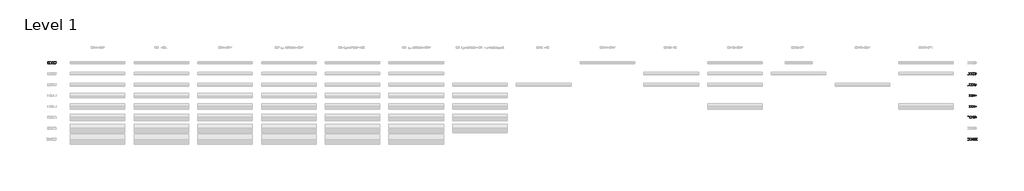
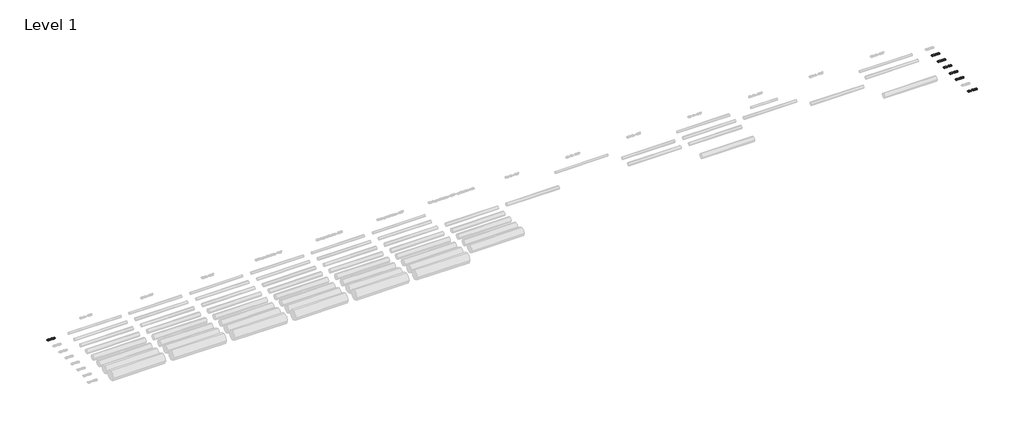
# One storey, part 4 of 10: 7 proxies.
"""IFC4 building model written with IfcOpenShell, lengths in millimetres."""

from ifc_helpers import new_model, si_unit, origin, origin_with_axes, place, context, project, spatial, polyline, outline, extrude, element, save

model = new_model("IFC4")

# Units and contexts
model_context = context("Model", 3, world=origin())
ifc_project = project(units=[si_unit("LENGTHUNIT", "METRE", prefix="MILLI")], contexts=[model_context])

# Site, building, storey
site = spatial("IfcSite", under=ifc_project)
building = spatial("IfcBuilding", under=site)
storey = spatial("IfcBuildingStorey", under=building, Name="Level 1", Elevation=0.0)

# Proxies
placement = place(None, origin())
element("IfcBuildingElementProxy", 1, Name="200mm Arial", ObjectType="200mm Arial", at=placement, inside=storey, context=model_context, shape_type="SweptSolid", body=[
    extrude(outline(polyline([(-19491.3116028, 486.050427), (-19491.3116028, 686.9630473), (-19422.0026349, 686.9630473), (-19386.1464031, 684.0690423), (-19370.1312736, 678.4894987), (-19356.6177416, 669.697119), (-19342.724065, 654.393228), (-19332.8280393, 635.3614662), (-19326.9051392, 612.9697154), (-19324.9308391, 587.5858577), (-19330.2773908, 547.0452618), (-19344.0116519, 517.7863805), (-19362.3567008, 499.563959), (-19386.3671323, 489.4839923), (-19418.6671715, 486.050427), (-19491.3116028, 486.050427)]), holes=[polyline([(-19466.1975253, 511.1645046), (-19421.7573803, 511.1645046), (-19389.4328156, 514.7942736), (-19370.7934612, 525.0459185), (-19362.0685265, 535.9168315), (-19355.5140957, 549.9883178), (-19351.4122114, 567.3216911), (-19350.0449167, 587.9782652), (-19352.7243239, 615.3486856), (-19360.7625455, 635.5576699), (-19372.6390025, 649.4390838), (-19386.8331162, 657.8267933), (-19422.4440933, 661.8489698), (-19466.1975253, 661.8489698), (-19466.1975253, 511.1645046)])]), origin_with_axes(), (0.0, 0.0, 1.0), 50.0),
    extrude(outline(polyline([(-19290.3989825, 486.050427), (-19290.3989825, 686.9630473), (-19263.5190714, 686.9630473), (-19158.5500754, 527.7927708), (-19158.5500754, 686.9630473), (-19133.4359979, 686.9630473), (-19133.4359979, 486.050427), (-19160.315909, 486.050427), (-19265.284905, 645.2697546), (-19265.284905, 486.050427), (-19290.3989825, 486.050427)])), origin_with_axes(), (0.0, 0.0, 1.0), 50.0),
    extrude(outline(polyline([(-18891.7130016, 511.1645046), (-18891.7130016, 486.050427), (-19023.5619087, 486.050427), (-19020.8641074, 503.3654063), (-19005.6092673, 530.0245882), (-18974.1676195, 559.1363168), (-18930.806595, 600.9767623), (-18922.6764029, 615.3977366), (-18919.9663388, 629.4263033), (-18922.5231187, 642.0017362), (-18930.1934583, 652.4557162), (-18941.9840762, 659.5006564), (-18956.9016912, 661.8489698), (-18972.5673328, 659.5558387), (-18984.7380955, 652.6764454), (-18992.5923761, 641.7503501), (-18995.3085714, 627.3171132), (-19020.422649, 630.4563729), (-19014.334202, 654.7488473), (-19001.1701579, 672.4930222), (-18981.6172299, 683.3455411), (-18956.3621309, 686.9630473), (-18930.9230909, 682.9408709), (-18911.4069511, 670.8743414), (-18898.9909337, 652.8481237), (-18894.8522613, 630.9468822), (-18899.3158962, 607.1326544), (-18914.1538033, 582.5090862), (-18950.1326624, 548.0998569), (-18979.0236618, 523.9422725), (-18990.3544272, 511.1645046), (-18891.7130016, 511.1645046)])), origin_with_axes(), (0.0, 0.0, 1.0), 50.0),
    extrude(outline(polyline([(-18866.5989241, 584.8880564), (-18864.7533827, 617.0470742), (-18859.2167587, 642.6945806), (-18850.0442343, 662.2229832), (-18837.2909918, 676.0246894), (-18820.8650607, 684.2284578), (-18800.6744705, 686.9630473), (-18785.1989013, 685.3443666), (-18771.3420128, 680.4883242), (-18759.7537299, 672.5849927), (-18751.0839776, 661.8244443), (-18739.3117537, 632.0995791), (-18734.750017, 584.8880564), (-18736.5771642, 552.9129797), (-18742.058606, 527.3267869), (-18751.1759481, 507.7799902), (-18763.9107965, 493.9231017), (-18780.3735158, 485.664151), (-18800.6744705, 482.9111674), (-18826.7695667, 487.6936333), (-18846.5861435, 502.0410311), (-18855.341735, 517.1701782), (-18861.5957289, 536.0210647), (-18866.5989241, 584.8880564)]), holes=[polyline([(-18841.4848465, 584.9371073), (-18838.5417906, 545.4327124), (-18829.7126227, 522.5688464), (-18816.5669727, 511.6611453), (-18800.6744705, 508.0252449), (-18784.7819683, 511.673408), (-18771.6363184, 522.6178974), (-18762.8071505, 545.4940261), (-18759.8640945, 584.9371073), (-18762.7090486, 623.5524541), (-18771.2439109, 646.5941297), (-18784.3650354, 658.0352598), (-18800.9687761, 661.8489698), (-18816.6896001, 658.4889809), (-18829.3202152, 648.4090143), (-18838.4436887, 623.9325988), (-18841.4848465, 584.9371073)])]), origin_with_axes(), (0.0, 0.0, 1.0), 50.0),
    extrude(outline(polyline([(-18712.7751992, 584.8880564), (-18710.9296578, 617.0470742), (-18705.3930338, 642.6945806), (-18696.2205094, 662.2229832), (-18683.4672669, 676.0246894), (-18667.0413358, 684.2284578), (-18646.8507456, 686.9630473), (-18631.3751764, 685.3443666), (-18617.5182879, 680.4883242), (-18605.930005, 672.5849927), (-18597.2602527, 661.8244443), (-18585.4880288, 632.0995791), (-18580.9262921, 584.8880564), (-18582.7534393, 552.9129797), (-18588.2348811, 527.3267869), (-18597.3522232, 507.7799902), (-18610.0870716, 493.9231017), (-18626.5497909, 485.664151), (-18646.8507456, 482.9111674), (-18672.9458418, 487.6936333), (-18692.7624186, 502.0410311), (-18701.5180101, 517.1701782), (-18707.772004, 536.0210647), (-18712.7751992, 584.8880564)]), holes=[polyline([(-18687.6611216, 584.9371073), (-18684.7180657, 545.4327124), (-18675.8888978, 522.5688464), (-18662.7432478, 511.6611453), (-18646.8507456, 508.0252449), (-18630.9582434, 511.673408), (-18617.8125935, 522.6178974), (-18608.9834256, 545.4940261), (-18606.0403696, 584.9371073), (-18608.8853237, 623.5524541), (-18617.420186, 646.5941297), (-18630.5413105, 658.0352598), (-18647.1450512, 661.8489698), (-18662.8658751, 658.4889809), (-18675.4964903, 648.4090143), (-18684.6199638, 623.9325988), (-18687.6611216, 584.9371073)])]), origin_with_axes(), (0.0, 0.0, 1.0), 50.0),
])
element("IfcBuildingElementProxy", 2, Name="200mm Arial", ObjectType="200mm Arial", at=placement, inside=storey, context=model_context, shape_type="SweptSolid", body=[
    extrude(outline(polyline([(81539.3076926, -713.949573), (81539.3076926, -513.0369527), (81608.6166605, -513.0369527), (81644.4728923, -515.9309577), (81660.4880218, -521.5105013), (81674.0015538, -530.302881), (81687.8952305, -545.606772), (81697.7912562, -564.6385338), (81703.7141563, -587.0302846), (81705.6884563, -612.4141423), (81700.3419047, -652.9547382), (81686.6076435, -682.2136195), (81668.2625947, -700.436041), (81644.2521631, -710.5160077), (81611.9521239, -713.949573), (81539.3076926, -713.949573)]), holes=[polyline([(81564.4217702, -688.8354954), (81608.8619152, -688.8354954), (81641.1864798, -685.2057264), (81659.8258342, -674.9540815), (81668.5507689, -664.0831685), (81675.1051998, -650.0116822), (81679.207084, -632.6783089), (81680.5743788, -612.0217348), (81677.8949716, -584.6513144), (81669.85675, -564.4423301), (81657.9802929, -550.5609162), (81643.7861793, -542.1732067), (81608.1752021, -538.1510302), (81564.4217702, -538.1510302), (81564.4217702, -688.8354954)])]), origin_with_axes(), (0.0, 0.0, 1.0), 50.0),
    extrude(outline(polyline([(81740.2203129, -713.949573), (81740.2203129, -513.0369527), (81767.100224, -513.0369527), (81872.06922, -672.2072292), (81872.06922, -513.0369527), (81897.1832975, -513.0369527), (81897.1832975, -713.949573), (81870.3033864, -713.949573), (81765.3343905, -554.7302454), (81765.3343905, -713.949573), (81740.2203129, -713.949573)])), origin_with_axes(), (0.0, 0.0, 1.0), 50.0),
    extrude(outline(polyline([(82138.9062938, -688.8354954), (82138.9062938, -713.949573), (82007.0573868, -713.949573), (82009.7551881, -696.6345937), (82025.0100281, -669.9754118), (82056.451676, -640.8636832), (82099.8127005, -599.0232377), (82107.9428926, -584.6022635), (82110.6529566, -570.5736967), (82108.0961767, -557.9982638), (82100.4258371, -547.5442838), (82088.6352192, -540.4993436), (82073.7176043, -538.1510302), (82058.0519627, -540.4441613), (82045.8812, -547.3235546), (82038.0269194, -558.2496499), (82035.310724, -572.6828868), (82010.1966465, -569.5436271), (82016.2850935, -545.2511527), (82029.4491375, -527.5069778), (82049.0020656, -516.6544589), (82074.2571645, -513.0369527), (82099.6962045, -517.0591291), (82119.2123444, -529.1256586), (82131.6283617, -547.1518763), (82135.7670341, -569.0531178), (82131.3033993, -592.8673456), (82116.4654921, -617.4909138), (82080.486633, -651.9001431), (82051.5956336, -676.0577275), (82040.2648682, -688.8354954), (82138.9062938, -688.8354954)])), origin_with_axes(), (0.0, 0.0, 1.0), 50.0),
    extrude(outline(polyline([(82164.0203714, -660.5821582), (82189.1344489, -657.4428985), (82193.7452366, -672.5199289), (82201.7895895, -683.3172655), (82213.2307196, -689.8103827), (82228.0318385, -691.9747551), (82246.0335308, -688.9642541), (82259.5225373, -679.9327511), (82267.947035, -665.9225785), (82270.7552009, -647.9760685), (82268.1248446, -631.0780222), (82260.2337758, -618.1531014), (82247.0206809, -609.9493329), (82228.424246, -607.2147434), (82206.3758518, -611.5802764), (82192.2737086, -622.9110419), (82167.1596311, -619.7717822), (82189.1344489, -516.1762123), (82286.4514994, -516.1762123), (82286.4514994, -541.2902899), (82209.441535, -541.2902899), (82198.6993808, -596.619742), (82216.6397594, -585.7304349), (82235.4385294, -582.1006659), (82258.9032693, -586.601089), (82278.3826209, -600.1023582), (82291.4976141, -620.6792244), (82295.8692784, -646.4064386), (82291.9329411, -671.5205162), (82280.123929, -693.0048247), (82269.6883431, -703.5415782), (82257.5114491, -711.0678307), (82243.5932469, -715.5835821), (82227.9337367, -717.0888326), (82203.2672489, -713.2199403), (82183.616219, -701.6132634), (82170.1456066, -683.6177025), (82164.0203714, -660.5821582)])), origin_with_axes(), (0.0, 0.0, 1.0), 50.0),
    extrude(outline(polyline([(82317.8440963, -615.1119436), (82319.6896376, -582.9529258), (82325.2262617, -557.3054194), (82334.3987861, -537.7770168), (82347.1520286, -523.9753106), (82363.5779597, -515.7715422), (82383.7685498, -513.0369527), (82399.2441191, -514.6556334), (82413.1010076, -519.5116758), (82424.6892904, -527.4150073), (82433.3590428, -538.1755557), (82445.1312666, -567.9004209), (82449.6930034, -615.1119436), (82447.8658561, -647.0870203), (82442.3844144, -672.6732131), (82433.2670723, -692.2200098), (82420.5322239, -706.0768983), (82404.0695046, -714.335849), (82383.7685498, -717.0888326), (82357.6734536, -712.3063667), (82337.8568768, -697.9589689), (82329.1012853, -682.8298218), (82322.8472914, -663.9789353), (82317.8440963, -615.1119436)]), holes=[polyline([(82342.9581738, -615.0628927), (82345.9012298, -654.5672876), (82354.7303977, -677.4311536), (82367.8760476, -688.3388547), (82383.7685498, -691.9747551), (82399.661052, -688.326592), (82412.806702, -677.3821026), (82421.6358699, -654.5059739), (82424.5789258, -615.0628927), (82421.7339717, -576.4475459), (82413.1991094, -553.4058703), (82400.0779849, -541.9647402), (82383.4742442, -538.1510302), (82367.7534203, -541.5110191), (82355.1228051, -551.5909857), (82345.9993317, -576.0674012), (82342.9581738, -615.0628927)])]), origin_with_axes(), (0.0, 0.0, 1.0), 50.0),
])
element("IfcBuildingElementProxy", 3, Name="200mm Arial", ObjectType="200mm Arial", at=placement, inside=storey, context=model_context, shape_type="SweptSolid", body=[
    extrude(outline(polyline([(81539.3076926, -1913.949573), (81539.3076926, -1713.0369527), (81608.6166605, -1713.0369527), (81644.4728923, -1715.9309577), (81660.4880218, -1721.5105013), (81674.0015538, -1730.302881), (81687.8952305, -1745.606772), (81697.7912562, -1764.6385338), (81703.7141563, -1787.0302846), (81705.6884563, -1812.4141423), (81700.3419047, -1852.9547382), (81686.6076435, -1882.2136195), (81668.2625947, -1900.436041), (81644.2521631, -1910.5160077), (81611.9521239, -1913.949573), (81539.3076926, -1913.949573)]), holes=[polyline([(81564.4217702, -1888.8354954), (81608.8619152, -1888.8354954), (81641.1864798, -1885.2057264), (81659.8258342, -1874.9540815), (81668.5507689, -1864.0831685), (81675.1051998, -1850.0116822), (81679.207084, -1832.6783089), (81680.5743788, -1812.0217348), (81677.8949716, -1784.6513144), (81669.85675, -1764.4423301), (81657.9802929, -1750.5609162), (81643.7861793, -1742.1732067), (81608.1752021, -1738.1510302), (81564.4217702, -1738.1510302), (81564.4217702, -1888.8354954)])]), origin_with_axes(), (0.0, 0.0, 1.0), 50.0),
    extrude(outline(polyline([(81740.2203129, -1913.949573), (81740.2203129, -1713.0369527), (81767.100224, -1713.0369527), (81872.06922, -1872.2072292), (81872.06922, -1713.0369527), (81897.1832975, -1713.0369527), (81897.1832975, -1913.949573), (81870.3033864, -1913.949573), (81765.3343905, -1754.7302454), (81765.3343905, -1913.949573), (81740.2203129, -1913.949573)])), origin_with_axes(), (0.0, 0.0, 1.0), 50.0),
    extrude(outline(polyline([(82010.1966465, -1860.5821582), (82035.310724, -1857.4428985), (82040.9331872, -1873.2250361), (82049.1676125, -1883.8813512), (82060.4186702, -1889.9514041), (82075.0910304, -1891.9747551), (82092.3079078, -1889.1911147), (82105.6007105, -1880.8401934), (82114.0987846, -1868.3812565), (82116.931476, -1853.2735692), (82114.1233101, -1838.9323028), (82105.6988124, -1827.3011004), (82092.9455699, -1819.5939726), (82077.1511696, -1817.02493), (82059.5418847, -1819.7717822), (82062.3377879, -1794.6577047), (82066.3599644, -1794.9520102), (82081.406338, -1793.1493885), (82094.8585563, -1787.7415231), (82104.3499118, -1778.5935242), (82107.5136969, -1765.5705016), (82105.2205658, -1754.7241141), (82098.3411725, -1745.925603), (82087.8442729, -1740.0946734), (82074.6986229, -1738.1510302), (82061.5284475, -1740.1130675), (82050.7617678, -1745.9991794), (82042.9013558, -1755.809366), (82038.4499837, -1769.5436271), (82013.3359061, -1766.4043674), (82020.7303343, -1743.8532011), (82033.8882469, -1727.0164685), (82051.8899392, -1716.5318316), (82073.8157062, -1713.0369527), (82089.6039751, -1714.7598667), (82104.1046571, -1719.9286087), (82116.3306021, -1728.0833263), (82125.29466, -1738.7641669), (82130.7944958, -1751.0698196), (82132.6277745, -1764.0989736), (82130.8864663, -1776.2390794), (82125.662542, -1787.2510138), (82117.0295779, -1796.6320047), (82105.0611503, -1803.87928), (82120.7819742, -1810.2313758), (82132.4315707, -1821.0471064), (82139.6420578, -1835.7378608), (82142.0455535, -1853.7150276), (82137.2385621, -1878.191443), (82122.8175879, -1898.645682), (82101.0512365, -1912.478045), (82074.2081136, -1917.0888326), (82049.9279019, -1913.1524953), (82030.1603761, -1901.3434833), (82016.4138522, -1883.2804773), (82010.1966465, -1860.5821582)])), origin_with_axes(), (0.0, 0.0, 1.0), 50.0),
    extrude(outline(polyline([(82164.0203714, -1815.1119436), (82165.8659127, -1782.9529258), (82171.4025367, -1757.3054194), (82180.5750612, -1737.7770168), (82193.3283037, -1723.9753106), (82209.7542347, -1715.7715422), (82229.9448249, -1713.0369527), (82245.4203942, -1714.6556334), (82259.2772827, -1719.5116758), (82270.8655655, -1727.4150073), (82279.5353179, -1738.1755557), (82291.3075417, -1767.9004209), (82295.8692784, -1815.1119436), (82294.0421312, -1847.0870203), (82288.5606895, -1872.6732131), (82279.4433474, -1892.2200098), (82266.708499, -1906.0768983), (82250.2457797, -1914.335849), (82229.9448249, -1917.0888326), (82203.8497287, -1912.3063667), (82184.0331519, -1897.9589689), (82175.2775604, -1882.8298218), (82169.0235665, -1863.9789353), (82164.0203714, -1815.1119436)]), holes=[polyline([(82189.1344489, -1815.0628927), (82192.0775049, -1854.5672876), (82200.9066728, -1877.4311536), (82214.0523227, -1888.3388547), (82229.9448249, -1891.9747551), (82245.8373271, -1888.326592), (82258.9829771, -1877.3821026), (82267.8121449, -1854.5059739), (82270.7552009, -1815.0628927), (82267.9102468, -1776.4475459), (82259.3753845, -1753.4058703), (82246.25426, -1741.9647402), (82229.6505193, -1738.1510302), (82213.9296954, -1741.5110191), (82201.2990802, -1751.5909857), (82192.1756067, -1776.0674012), (82189.1344489, -1815.0628927)])]), origin_with_axes(), (0.0, 0.0, 1.0), 50.0),
    extrude(outline(polyline([(82317.8440963, -1815.1119436), (82319.6896376, -1782.9529258), (82325.2262617, -1757.3054194), (82334.3987861, -1737.7770168), (82347.1520286, -1723.9753106), (82363.5779597, -1715.7715422), (82383.7685498, -1713.0369527), (82399.2441191, -1714.6556334), (82413.1010076, -1719.5116758), (82424.6892904, -1727.4150073), (82433.3590428, -1738.1755557), (82445.1312666, -1767.9004209), (82449.6930034, -1815.1119436), (82447.8658561, -1847.0870203), (82442.3844144, -1872.6732131), (82433.2670723, -1892.2200098), (82420.5322239, -1906.0768983), (82404.0695046, -1914.335849), (82383.7685498, -1917.0888326), (82357.6734536, -1912.3063667), (82337.8568768, -1897.9589689), (82329.1012853, -1882.8298218), (82322.8472914, -1863.9789353), (82317.8440963, -1815.1119436)]), holes=[polyline([(82342.9581738, -1815.0628927), (82345.9012298, -1854.5672876), (82354.7303977, -1877.4311536), (82367.8760476, -1888.3388547), (82383.7685498, -1891.9747551), (82399.661052, -1888.326592), (82412.806702, -1877.3821026), (82421.6358699, -1854.5059739), (82424.5789258, -1815.0628927), (82421.7339717, -1776.4475459), (82413.1991094, -1753.4058703), (82400.0779849, -1741.9647402), (82383.4742442, -1738.1510302), (82367.7534203, -1741.5110191), (82355.1228051, -1751.5909857), (82345.9993317, -1776.0674012), (82342.9581738, -1815.0628927)])]), origin_with_axes(), (0.0, 0.0, 1.0), 50.0),
])
element("IfcBuildingElementProxy", 4, Name="200mm Arial", ObjectType="200mm Arial", at=placement, inside=storey, context=model_context, shape_type="SweptSolid", body=[
    extrude(outline(polyline([(81539.3076926, -3113.949573), (81539.3076926, -2913.0369527), (81608.6166605, -2913.0369527), (81644.4728923, -2915.9309577), (81660.4880218, -2921.5105013), (81674.0015538, -2930.302881), (81687.8952305, -2945.606772), (81697.7912562, -2964.6385338), (81703.7141563, -2987.0302846), (81705.6884563, -3012.4141423), (81700.3419047, -3052.9547382), (81686.6076435, -3082.2136195), (81668.2625947, -3100.436041), (81644.2521631, -3110.5160077), (81611.9521239, -3113.949573), (81539.3076926, -3113.949573)]), holes=[polyline([(81564.4217702, -3088.8354954), (81608.8619152, -3088.8354954), (81641.1864798, -3085.2057264), (81659.8258342, -3074.9540815), (81668.5507689, -3064.0831685), (81675.1051998, -3050.0116822), (81679.207084, -3032.6783089), (81680.5743788, -3012.0217348), (81677.8949716, -2984.6513144), (81669.85675, -2964.4423301), (81657.9802929, -2950.5609162), (81643.7861793, -2942.1732067), (81608.1752021, -2938.1510302), (81564.4217702, -2938.1510302), (81564.4217702, -3088.8354954)])]), origin_with_axes(), (0.0, 0.0, 1.0), 50.0),
    extrude(outline(polyline([(81740.2203129, -3113.949573), (81740.2203129, -2913.0369527), (81767.100224, -2913.0369527), (81872.06922, -3072.2072292), (81872.06922, -2913.0369527), (81897.1832975, -2913.0369527), (81897.1832975, -3113.949573), (81870.3033864, -3113.949573), (81765.3343905, -2954.7302454), (81765.3343905, -3113.949573), (81740.2203129, -3113.949573)])), origin_with_axes(), (0.0, 0.0, 1.0), 50.0),
    extrude(outline(polyline([(82091.8173985, -3113.949573), (82091.8173985, -3066.8606776), (82000.7788674, -3066.8606776), (82000.7788674, -3041.7466), (82098.0959178, -2916.1762123), (82116.931476, -2916.1762123), (82116.931476, -3041.7466), (82142.0455535, -3041.7466), (82142.0455535, -3066.8606776), (82116.931476, -3066.8606776), (82116.931476, -3113.949573), (82091.8173985, -3113.949573)]), holes=[polyline([(82091.8173985, -3041.7466), (82091.8173985, -2964.1480245), (82031.680955, -3041.7466), (82091.8173985, -3041.7466)])]), origin_with_axes(), (0.0, 0.0, 1.0), 50.0),
    extrude(outline(polyline([(82164.0203714, -3015.1119436), (82165.8659127, -2982.9529258), (82171.4025367, -2957.3054194), (82180.5750612, -2937.7770168), (82193.3283037, -2923.9753106), (82209.7542347, -2915.7715422), (82229.9448249, -2913.0369527), (82245.4203942, -2914.6556334), (82259.2772827, -2919.5116758), (82270.8655655, -2927.4150073), (82279.5353179, -2938.1755557), (82291.3075417, -2967.9004209), (82295.8692784, -3015.1119436), (82294.0421312, -3047.0870203), (82288.5606895, -3072.6732131), (82279.4433474, -3092.2200098), (82266.708499, -3106.0768983), (82250.2457797, -3114.335849), (82229.9448249, -3117.0888326), (82203.8497287, -3112.3063667), (82184.0331519, -3097.9589689), (82175.2775604, -3082.8298218), (82169.0235665, -3063.9789353), (82164.0203714, -3015.1119436)]), holes=[polyline([(82189.1344489, -3015.0628927), (82192.0775049, -3054.5672876), (82200.9066728, -3077.4311536), (82214.0523227, -3088.3388547), (82229.9448249, -3091.9747551), (82245.8373271, -3088.326592), (82258.9829771, -3077.3821026), (82267.8121449, -3054.5059739), (82270.7552009, -3015.0628927), (82267.9102468, -2976.4475459), (82259.3753845, -2953.4058703), (82246.25426, -2941.9647402), (82229.6505193, -2938.1510302), (82213.9296954, -2941.5110191), (82201.2990802, -2951.5909857), (82192.1756067, -2976.0674012), (82189.1344489, -3015.0628927)])]), origin_with_axes(), (0.0, 0.0, 1.0), 50.0),
    extrude(outline(polyline([(82317.8440963, -3015.1119436), (82319.6896376, -2982.9529258), (82325.2262617, -2957.3054194), (82334.3987861, -2937.7770168), (82347.1520286, -2923.9753106), (82363.5779597, -2915.7715422), (82383.7685498, -2913.0369527), (82399.2441191, -2914.6556334), (82413.1010076, -2919.5116758), (82424.6892904, -2927.4150073), (82433.3590428, -2938.1755557), (82445.1312666, -2967.9004209), (82449.6930034, -3015.1119436), (82447.8658561, -3047.0870203), (82442.3844144, -3072.6732131), (82433.2670723, -3092.2200098), (82420.5322239, -3106.0768983), (82404.0695046, -3114.335849), (82383.7685498, -3117.0888326), (82357.6734536, -3112.3063667), (82337.8568768, -3097.9589689), (82329.1012853, -3082.8298218), (82322.8472914, -3063.9789353), (82317.8440963, -3015.1119436)]), holes=[polyline([(82342.9581738, -3015.0628927), (82345.9012298, -3054.5672876), (82354.7303977, -3077.4311536), (82367.8760476, -3088.3388547), (82383.7685498, -3091.9747551), (82399.661052, -3088.326592), (82412.806702, -3077.3821026), (82421.6358699, -3054.5059739), (82424.5789258, -3015.0628927), (82421.7339717, -2976.4475459), (82413.1991094, -2953.4058703), (82400.0779849, -2941.9647402), (82383.4742442, -2938.1510302), (82367.7534203, -2941.5110191), (82355.1228051, -2951.5909857), (82345.9993317, -2976.0674012), (82342.9581738, -3015.0628927)])]), origin_with_axes(), (0.0, 0.0, 1.0), 50.0),
])
element("IfcBuildingElementProxy", 5, Name="200mm Arial", ObjectType="200mm Arial", at=placement, inside=storey, context=model_context, shape_type="SweptSolid", body=[
    extrude(outline(polyline([(81539.3076926, -4313.949573), (81539.3076926, -4113.0369527), (81608.6166605, -4113.0369527), (81644.4728923, -4115.9309577), (81660.4880218, -4121.5105013), (81674.0015538, -4130.302881), (81687.8952305, -4145.606772), (81697.7912562, -4164.6385338), (81703.7141563, -4187.0302846), (81705.6884563, -4212.4141423), (81700.3419047, -4252.9547382), (81686.6076435, -4282.2136195), (81668.2625947, -4300.436041), (81644.2521631, -4310.5160077), (81611.9521239, -4313.949573), (81539.3076926, -4313.949573)]), holes=[polyline([(81564.4217702, -4288.8354954), (81608.8619152, -4288.8354954), (81641.1864798, -4285.2057264), (81659.8258342, -4274.9540815), (81668.5507689, -4264.0831685), (81675.1051998, -4250.0116822), (81679.207084, -4232.6783089), (81680.5743788, -4212.0217348), (81677.8949716, -4184.6513144), (81669.85675, -4164.4423301), (81657.9802929, -4150.5609162), (81643.7861793, -4142.1732067), (81608.1752021, -4138.1510302), (81564.4217702, -4138.1510302), (81564.4217702, -4288.8354954)])]), origin_with_axes(), (0.0, 0.0, 1.0), 50.0),
    extrude(outline(polyline([(81740.2203129, -4313.949573), (81740.2203129, -4113.0369527), (81767.100224, -4113.0369527), (81872.06922, -4272.2072292), (81872.06922, -4113.0369527), (81897.1832975, -4113.0369527), (81897.1832975, -4313.949573), (81870.3033864, -4313.949573), (81765.3343905, -4154.7302454), (81765.3343905, -4313.949573), (81740.2203129, -4313.949573)])), origin_with_axes(), (0.0, 0.0, 1.0), 50.0),
    extrude(outline(polyline([(82010.1966465, -4260.5821582), (82035.310724, -4257.4428985), (82039.9215117, -4272.5199289), (82047.9658646, -4283.3172655), (82059.4069947, -4289.8103827), (82074.2081136, -4291.9747551), (82092.2098059, -4288.9642541), (82105.6988124, -4279.9327511), (82114.1233101, -4265.9225785), (82116.931476, -4247.9760685), (82114.3011197, -4231.0780222), (82106.4100509, -4218.1531014), (82093.1969559, -4209.9493329), (82074.6005211, -4207.2147434), (82052.5521268, -4211.5802764), (82038.4499837, -4222.9110419), (82013.3359061, -4219.7717822), (82035.310724, -4116.1762123), (82132.6277745, -4116.1762123), (82132.6277745, -4141.2902899), (82055.6178101, -4141.2902899), (82044.8756559, -4196.619742), (82062.8160345, -4185.7304349), (82081.6148045, -4182.1006659), (82105.0795444, -4186.601089), (82124.558896, -4200.1023582), (82137.6738892, -4220.6792244), (82142.0455535, -4246.4064386), (82138.1092162, -4271.5205162), (82126.3002041, -4293.0048247), (82115.8646182, -4303.5415782), (82103.6877242, -4311.0678307), (82089.769522, -4315.5835821), (82074.1100118, -4317.0888326), (82049.443524, -4313.2199403), (82029.7924941, -4301.6132634), (82016.3218817, -4283.6177025), (82010.1966465, -4260.5821582)])), origin_with_axes(), (0.0, 0.0, 1.0), 50.0),
    extrude(outline(polyline([(82164.0203714, -4215.1119436), (82165.8659127, -4182.9529258), (82171.4025367, -4157.3054194), (82180.5750612, -4137.7770168), (82193.3283037, -4123.9753106), (82209.7542347, -4115.7715422), (82229.9448249, -4113.0369527), (82245.4203942, -4114.6556334), (82259.2772827, -4119.5116758), (82270.8655655, -4127.4150073), (82279.5353179, -4138.1755557), (82291.3075417, -4167.9004209), (82295.8692784, -4215.1119436), (82294.0421312, -4247.0870203), (82288.5606895, -4272.6732131), (82279.4433474, -4292.2200098), (82266.708499, -4306.0768983), (82250.2457797, -4314.335849), (82229.9448249, -4317.0888326), (82203.8497287, -4312.3063667), (82184.0331519, -4297.9589689), (82175.2775604, -4282.8298218), (82169.0235665, -4263.9789353), (82164.0203714, -4215.1119436)]), holes=[polyline([(82189.1344489, -4215.0628927), (82192.0775049, -4254.5672876), (82200.9066728, -4277.4311536), (82214.0523227, -4288.3388547), (82229.9448249, -4291.9747551), (82245.8373271, -4288.326592), (82258.9829771, -4277.3821026), (82267.8121449, -4254.5059739), (82270.7552009, -4215.0628927), (82267.9102468, -4176.4475459), (82259.3753845, -4153.4058703), (82246.25426, -4141.9647402), (82229.6505193, -4138.1510302), (82213.9296954, -4141.5110191), (82201.2990802, -4151.5909857), (82192.1756067, -4176.0674012), (82189.1344489, -4215.0628927)])]), origin_with_axes(), (0.0, 0.0, 1.0), 50.0),
    extrude(outline(polyline([(82317.8440963, -4215.1119436), (82319.6896376, -4182.9529258), (82325.2262617, -4157.3054194), (82334.3987861, -4137.7770168), (82347.1520286, -4123.9753106), (82363.5779597, -4115.7715422), (82383.7685498, -4113.0369527), (82399.2441191, -4114.6556334), (82413.1010076, -4119.5116758), (82424.6892904, -4127.4150073), (82433.3590428, -4138.1755557), (82445.1312666, -4167.9004209), (82449.6930034, -4215.1119436), (82447.8658561, -4247.0870203), (82442.3844144, -4272.6732131), (82433.2670723, -4292.2200098), (82420.5322239, -4306.0768983), (82404.0695046, -4314.335849), (82383.7685498, -4317.0888326), (82357.6734536, -4312.3063667), (82337.8568768, -4297.9589689), (82329.1012853, -4282.8298218), (82322.8472914, -4263.9789353), (82317.8440963, -4215.1119436)]), holes=[polyline([(82342.9581738, -4215.0628927), (82345.9012298, -4254.5672876), (82354.7303977, -4277.4311536), (82367.8760476, -4288.3388547), (82383.7685498, -4291.9747551), (82399.661052, -4288.326592), (82412.806702, -4277.3821026), (82421.6358699, -4254.5059739), (82424.5789258, -4215.0628927), (82421.7339717, -4176.4475459), (82413.1991094, -4153.4058703), (82400.0779849, -4141.9647402), (82383.4742442, -4138.1510302), (82367.7534203, -4141.5110191), (82355.1228051, -4151.5909857), (82345.9993317, -4176.0674012), (82342.9581738, -4215.0628927)])]), origin_with_axes(), (0.0, 0.0, 1.0), 50.0),
])
element("IfcBuildingElementProxy", 6, Name="200mm Arial", ObjectType="200mm Arial", at=placement, inside=storey, context=model_context, shape_type="SweptSolid", body=[
    extrude(outline(polyline([(81539.3076926, -5513.949573), (81539.3076926, -5313.0369527), (81608.6166605, -5313.0369527), (81644.4728923, -5315.9309577), (81660.4880218, -5321.5105013), (81674.0015538, -5330.302881), (81687.8952305, -5345.606772), (81697.7912562, -5364.6385338), (81703.7141563, -5387.0302846), (81705.6884563, -5412.4141423), (81700.3419047, -5452.9547382), (81686.6076435, -5482.2136195), (81668.2625947, -5500.436041), (81644.2521631, -5510.5160077), (81611.9521239, -5513.949573), (81539.3076926, -5513.949573)]), holes=[polyline([(81564.4217702, -5488.8354954), (81608.8619152, -5488.8354954), (81641.1864798, -5485.2057264), (81659.8258342, -5474.9540815), (81668.5507689, -5464.0831685), (81675.1051998, -5450.0116822), (81679.207084, -5432.6783089), (81680.5743788, -5412.0217348), (81677.8949716, -5384.6513144), (81669.85675, -5364.4423301), (81657.9802929, -5350.5609162), (81643.7861793, -5342.1732067), (81608.1752021, -5338.1510302), (81564.4217702, -5338.1510302), (81564.4217702, -5488.8354954)])]), origin_with_axes(), (0.0, 0.0, 1.0), 50.0),
    extrude(outline(polyline([(81740.2203129, -5513.949573), (81740.2203129, -5313.0369527), (81767.100224, -5313.0369527), (81872.06922, -5472.2072292), (81872.06922, -5313.0369527), (81897.1832975, -5313.0369527), (81897.1832975, -5513.949573), (81870.3033864, -5513.949573), (81765.3343905, -5354.7302454), (81765.3343905, -5513.949573), (81740.2203129, -5513.949573)])), origin_with_axes(), (0.0, 0.0, 1.0), 50.0),
    extrude(outline(polyline([(82138.9062938, -5366.4043674), (82113.7922163, -5369.5436271), (82104.2763354, -5348.5988789), (82092.8842562, -5340.7629924), (82079.1132069, -5338.1510302), (82056.451676, -5344.2333458), (82047.0155028, -5353.8411973), (82039.308375, -5367.066555), (82034.1028448, -5385.7733545), (82032.1714643, -5411.8255311), (82042.2452996, -5400.0717013), (82054.3179604, -5391.7882251), (82067.7149964, -5386.8770005), (82081.7619573, -5385.2399256), (82104.9630484, -5389.7158232), (82124.4362687, -5403.143516), (82137.6432323, -5423.6590686), (82142.0455535, -5449.3985455), (82139.9731516, -5467.3818437), (82133.7559459, -5484.0530295), (82123.9089712, -5498.1919608), (82110.9472622, -5508.5784958), (82095.4594302, -5514.9612484), (82078.0340864, -5517.0888326), (82049.5416258, -5511.4479754), (82026.8494381, -5494.5254036), (82018.1904156, -5481.4165418), (82012.0053996, -5464.6533856), (82007.0573868, -5420.1641897), (82012.5510912, -5370.144501), (82019.4182218, -5351.0667539), (82029.0322046, -5335.9437382), (82039.4524621, -5325.9220195), (82051.53432, -5318.763649), (82080.6828367, -5313.0369527), (82102.7189682, -5316.5808825), (82120.3650413, -5327.2126722), (82132.7258763, -5344.0984558), (82138.9062938, -5366.4043674)]), holes=[polyline([(82032.1714643, -5449.0061381), (82037.9839998, -5470.7602267), (82053.4350436, -5486.554627), (82076.0720491, -5491.9747551), (82092.6451329, -5489.1665892), (82105.6742869, -5480.7420915), (82114.1171787, -5467.4983397), (82116.931476, -5450.2324114), (82114.1539669, -5433.6593275), (82105.8214397, -5421.022581), (82092.5715565, -5413.0211476), (82075.0419795, -5410.3540031), (82058.4934211, -5413.0211476), (82044.6549267, -5421.022581), (82035.2923299, -5433.3527592), (82032.1714643, -5449.0061381)])]), origin_with_axes(), (0.0, 0.0, 1.0), 50.0),
    extrude(outline(polyline([(82164.0203714, -5415.1119436), (82165.8659127, -5382.9529258), (82171.4025367, -5357.3054194), (82180.5750612, -5337.7770168), (82193.3283037, -5323.9753106), (82209.7542347, -5315.7715422), (82229.9448249, -5313.0369527), (82245.4203942, -5314.6556334), (82259.2772827, -5319.5116758), (82270.8655655, -5327.4150073), (82279.5353179, -5338.1755557), (82291.3075417, -5367.9004209), (82295.8692784, -5415.1119436), (82294.0421312, -5447.0870203), (82288.5606895, -5472.6732131), (82279.4433474, -5492.2200098), (82266.708499, -5506.0768983), (82250.2457797, -5514.335849), (82229.9448249, -5517.0888326), (82203.8497287, -5512.3063667), (82184.0331519, -5497.9589689), (82175.2775604, -5482.8298218), (82169.0235665, -5463.9789353), (82164.0203714, -5415.1119436)]), holes=[polyline([(82189.1344489, -5415.0628927), (82192.0775049, -5454.5672876), (82200.9066728, -5477.4311536), (82214.0523227, -5488.3388547), (82229.9448249, -5491.9747551), (82245.8373271, -5488.326592), (82258.9829771, -5477.3821026), (82267.8121449, -5454.5059739), (82270.7552009, -5415.0628927), (82267.9102468, -5376.4475459), (82259.3753845, -5353.4058703), (82246.25426, -5341.9647402), (82229.6505193, -5338.1510302), (82213.9296954, -5341.5110191), (82201.2990802, -5351.5909857), (82192.1756067, -5376.0674012), (82189.1344489, -5415.0628927)])]), origin_with_axes(), (0.0, 0.0, 1.0), 50.0),
    extrude(outline(polyline([(82317.8440963, -5415.1119436), (82319.6896376, -5382.9529258), (82325.2262617, -5357.3054194), (82334.3987861, -5337.7770168), (82347.1520286, -5323.9753106), (82363.5779597, -5315.7715422), (82383.7685498, -5313.0369527), (82399.2441191, -5314.6556334), (82413.1010076, -5319.5116758), (82424.6892904, -5327.4150073), (82433.3590428, -5338.1755557), (82445.1312666, -5367.9004209), (82449.6930034, -5415.1119436), (82447.8658561, -5447.0870203), (82442.3844144, -5472.6732131), (82433.2670723, -5492.2200098), (82420.5322239, -5506.0768983), (82404.0695046, -5514.335849), (82383.7685498, -5517.0888326), (82357.6734536, -5512.3063667), (82337.8568768, -5497.9589689), (82329.1012853, -5482.8298218), (82322.8472914, -5463.9789353), (82317.8440963, -5415.1119436)]), holes=[polyline([(82342.9581738, -5415.0628927), (82345.9012298, -5454.5672876), (82354.7303977, -5477.4311536), (82367.8760476, -5488.3388547), (82383.7685498, -5491.9747551), (82399.661052, -5488.326592), (82412.806702, -5477.3821026), (82421.6358699, -5454.5059739), (82424.5789258, -5415.0628927), (82421.7339717, -5376.4475459), (82413.1991094, -5353.4058703), (82400.0779849, -5341.9647402), (82383.4742442, -5338.1510302), (82367.7534203, -5341.5110191), (82355.1228051, -5351.5909857), (82345.9993317, -5376.0674012), (82342.9581738, -5415.0628927)])]), origin_with_axes(), (0.0, 0.0, 1.0), 50.0),
])
element("IfcBuildingElementProxy", 7, Name="200mm Arial", ObjectType="200mm Arial", at=placement, inside=storey, context=model_context, shape_type="SweptSolid", body=[
    extrude(outline(polyline([(81539.3076926, -7913.949573), (81539.3076926, -7713.0369527), (81608.6166605, -7713.0369527), (81644.4728923, -7715.9309577), (81660.4880218, -7721.5105013), (81674.0015538, -7730.302881), (81687.8952305, -7745.606772), (81697.7912562, -7764.6385338), (81703.7141563, -7787.0302846), (81705.6884563, -7812.4141423), (81700.3419047, -7852.9547382), (81686.6076435, -7882.2136195), (81668.2625947, -7900.436041), (81644.2521631, -7910.5160077), (81611.9521239, -7913.949573), (81539.3076926, -7913.949573)]), holes=[polyline([(81564.4217702, -7888.8354954), (81608.8619152, -7888.8354954), (81641.1864798, -7885.2057264), (81659.8258342, -7874.9540815), (81668.5507689, -7864.0831685), (81675.1051998, -7850.0116822), (81679.207084, -7832.6783089), (81680.5743788, -7812.0217348), (81677.8949716, -7784.6513144), (81669.85675, -7764.4423301), (81657.9802929, -7750.5609162), (81643.7861793, -7742.1732067), (81608.1752021, -7738.1510302), (81564.4217702, -7738.1510302), (81564.4217702, -7888.8354954)])]), origin_with_axes(), (0.0, 0.0, 1.0), 50.0),
    extrude(outline(polyline([(81740.2203129, -7913.949573), (81740.2203129, -7713.0369527), (81767.100224, -7713.0369527), (81872.06922, -7872.2072292), (81872.06922, -7713.0369527), (81897.1832975, -7713.0369527), (81897.1832975, -7913.949573), (81870.3033864, -7913.949573), (81765.3343905, -7754.7302454), (81765.3343905, -7913.949573), (81740.2203129, -7913.949573)])), origin_with_axes(), (0.0, 0.0, 1.0), 50.0),
    extrude(outline(polyline([(82104.3744372, -7913.949573), (82079.2603597, -7913.949573), (82079.2603597, -7757.3789958), (82055.4706573, -7774.3260931), (82029.0322046, -7787.0057592), (82029.0322046, -7763.2651077), (82065.8449296, -7739.769711), (82079.315542, -7726.1948653), (82088.1876294, -7713.0369527), (82104.3744372, -7713.0369527), (82104.3744372, -7913.949573)])), origin_with_axes(), (0.0, 0.0, 1.0), 50.0),
    extrude(outline(polyline([(82164.0203714, -7815.1119436), (82165.8659127, -7782.9529258), (82171.4025367, -7757.3054194), (82180.5750612, -7737.7770168), (82193.3283037, -7723.9753106), (82209.7542347, -7715.7715422), (82229.9448249, -7713.0369527), (82245.4203942, -7714.6556334), (82259.2772827, -7719.5116758), (82270.8655655, -7727.4150073), (82279.5353179, -7738.1755557), (82291.3075417, -7767.9004209), (82295.8692784, -7815.1119436), (82294.0421312, -7847.0870203), (82288.5606895, -7872.6732131), (82279.4433474, -7892.2200098), (82266.708499, -7906.0768983), (82250.2457797, -7914.335849), (82229.9448249, -7917.0888326), (82203.8497287, -7912.3063667), (82184.0331519, -7897.9589689), (82175.2775604, -7882.8298218), (82169.0235665, -7863.9789353), (82164.0203714, -7815.1119436)]), holes=[polyline([(82189.1344489, -7815.0628927), (82192.0775049, -7854.5672876), (82200.9066728, -7877.4311536), (82214.0523227, -7888.3388547), (82229.9448249, -7891.9747551), (82245.8373271, -7888.326592), (82258.9829771, -7877.3821026), (82267.8121449, -7854.5059739), (82270.7552009, -7815.0628927), (82267.9102468, -7776.4475459), (82259.3753845, -7753.4058703), (82246.25426, -7741.9647402), (82229.6505193, -7738.1510302), (82213.9296954, -7741.5110191), (82201.2990802, -7751.5909857), (82192.1756067, -7776.0674012), (82189.1344489, -7815.0628927)])]), origin_with_axes(), (0.0, 0.0, 1.0), 50.0),
    extrude(outline(polyline([(82317.8440963, -7815.1119436), (82319.6896376, -7782.9529258), (82325.2262617, -7757.3054194), (82334.3987861, -7737.7770168), (82347.1520286, -7723.9753106), (82363.5779597, -7715.7715422), (82383.7685498, -7713.0369527), (82399.2441191, -7714.6556334), (82413.1010076, -7719.5116758), (82424.6892904, -7727.4150073), (82433.3590428, -7738.1755557), (82445.1312666, -7767.9004209), (82449.6930034, -7815.1119436), (82447.8658561, -7847.0870203), (82442.3844144, -7872.6732131), (82433.2670723, -7892.2200098), (82420.5322239, -7906.0768983), (82404.0695046, -7914.335849), (82383.7685498, -7917.0888326), (82357.6734536, -7912.3063667), (82337.8568768, -7897.9589689), (82329.1012853, -7882.8298218), (82322.8472914, -7863.9789353), (82317.8440963, -7815.1119436)]), holes=[polyline([(82342.9581738, -7815.0628927), (82345.9012298, -7854.5672876), (82354.7303977, -7877.4311536), (82367.8760476, -7888.3388547), (82383.7685498, -7891.9747551), (82399.661052, -7888.326592), (82412.806702, -7877.3821026), (82421.6358699, -7854.5059739), (82424.5789258, -7815.0628927), (82421.7339717, -7776.4475459), (82413.1991094, -7753.4058703), (82400.0779849, -7741.9647402), (82383.4742442, -7738.1510302), (82367.7534203, -7741.5110191), (82355.1228051, -7751.5909857), (82345.9993317, -7776.0674012), (82342.9581738, -7815.0628927)])]), origin_with_axes(), (0.0, 0.0, 1.0), 50.0),
    extrude(outline(polyline([(82471.6678212, -7815.1119436), (82473.5133625, -7782.9529258), (82479.0499866, -7757.3054194), (82488.222511, -7737.7770168), (82500.9757535, -7723.9753106), (82517.4016846, -7715.7715422), (82537.5922747, -7713.0369527), (82553.067844, -7714.6556334), (82566.9247325, -7719.5116758), (82578.5130153, -7727.4150073), (82587.1827677, -7738.1755557), (82598.9549915, -7767.9004209), (82603.5167283, -7815.1119436), (82601.689581, -7847.0870203), (82596.2081393, -7872.6732131), (82587.0907972, -7892.2200098), (82574.3559488, -7906.0768983), (82557.8932295, -7914.335849), (82537.5922747, -7917.0888326), (82511.4971785, -7912.3063667), (82491.6806017, -7897.9589689), (82482.9250103, -7882.8298218), (82476.6710163, -7863.9789353), (82471.6678212, -7815.1119436)]), holes=[polyline([(82496.7818987, -7815.0628927), (82499.7249547, -7854.5672876), (82508.5541226, -7877.4311536), (82521.6997725, -7888.3388547), (82537.5922747, -7891.9747551), (82553.4847769, -7888.326592), (82566.6304269, -7877.3821026), (82575.4595948, -7854.5059739), (82578.4026507, -7815.0628927), (82575.5576966, -7776.4475459), (82567.0228344, -7753.4058703), (82553.9017099, -7741.9647402), (82537.2979691, -7738.1510302), (82521.5771452, -7741.5110191), (82508.94653, -7751.5909857), (82499.8230566, -7776.0674012), (82496.7818987, -7815.0628927)])]), origin_with_axes(), (0.0, 0.0, 1.0), 50.0),
])

save(model, "model.ifc")
